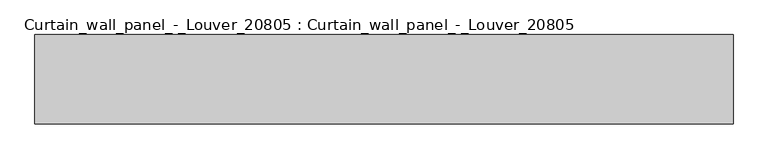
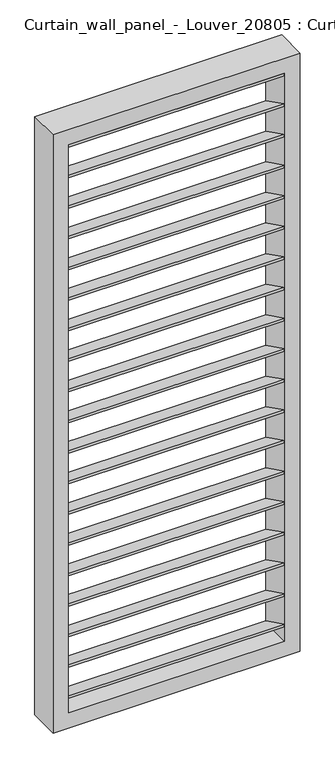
"""IFC4 building model written with IfcOpenShell, lengths in millimetres: plate geometry, Curtain_wall_panel_-_Louver_20805 : Curtain_wall_panel_-_Louver_20805."""

from ifc_helpers import new_model, si_unit, frame, origin, place, context, project, spatial, polyline, outline, extrude, source, transform, mapped, element, save


def curtain_wall_panel_louver_20805_curtain_wall_panel_louver_29182894(model_context):
    return source(origin(), model_context, "Body", "SweptSolid", [
        extrude(outline(polyline([(-200.0, 3678.5908966), (-200.0, 3695.3408295), (0.0, 3595.9558314), (0.0, 3579.2058986), (-200.0, 3678.5908966)])), frame((-682.1696292, 0.0, 0.0), z_axis=(1.0, 0.0, 0.0), x_axis=(0.0, 1.0, 0.0)), (0.0, 0.0, 1.0), 1364.3392585),
        extrude(outline(polyline([(-200.0, 3473.9317261), (-200.0, 3490.681659), (0.0, 3391.2966609), (0.0, 3374.546728), (-200.0, 3473.9317261)])), frame((-682.1696292, 0.0, 0.0), z_axis=(1.0, 0.0, 0.0), x_axis=(0.0, 1.0, 0.0)), (0.0, 0.0, 1.0), 1364.3392585),
        extrude(outline(polyline([(-200.0, 3269.2725556), (-200.0, 3286.0224885), (0.0, 3186.6374904), (0.0, 3169.8875575), (-200.0, 3269.2725556)])), frame((-682.1696292, 0.0, 0.0), z_axis=(1.0, 0.0, 0.0), x_axis=(0.0, 1.0, 0.0)), (0.0, 0.0, 1.0), 1364.3392585),
        extrude(outline(polyline([(-200.0, 3064.6133851), (-200.0, 3081.363318), (0.0, 2981.9783199), (0.0, 2965.228387), (-200.0, 3064.6133851)])), frame((-682.1696292, 0.0, 0.0), z_axis=(1.0, 0.0, 0.0), x_axis=(0.0, 1.0, 0.0)), (0.0, 0.0, 1.0), 1364.3392585),
        extrude(outline(polyline([(-200.0, 2859.9542146), (-200.0, 2876.7041475), (0.0, 2777.3191494), (0.0, 2760.5692165), (-200.0, 2859.9542146)])), frame((-682.1696292, 0.0, 0.0), z_axis=(1.0, 0.0, 0.0), x_axis=(0.0, 1.0, 0.0)), (0.0, 0.0, 1.0), 1364.3392585),
        extrude(outline(polyline([(-200.0, 2655.2950441), (-200.0, 2672.044977), (0.0, 2572.6599789), (0.0, 2555.910046), (-200.0, 2655.2950441)])), frame((-682.1696292, 0.0, 0.0), z_axis=(1.0, 0.0, 0.0), x_axis=(0.0, 1.0, 0.0)), (0.0, 0.0, 1.0), 1364.3392585),
        extrude(outline(polyline([(-200.0, 2450.6358736), (-200.0, 2467.3858065), (0.0, 2368.0008084), (0.0, 2351.2508755), (-200.0, 2450.6358736)])), frame((-682.1696292, 0.0, 0.0), z_axis=(1.0, 0.0, 0.0), x_axis=(0.0, 1.0, 0.0)), (0.0, 0.0, 1.0), 1364.3392585),
        extrude(outline(polyline([(-200.0, 2245.9767031), (-200.0, 2262.726636), (0.0, 2163.3416379), (0.0, 2146.591705), (-200.0, 2245.9767031)])), frame((-682.1696292, 0.0, 0.0), z_axis=(1.0, 0.0, 0.0), x_axis=(0.0, 1.0, 0.0)), (0.0, 0.0, 1.0), 1364.3392585),
        extrude(outline(polyline([(-200.0, 2041.3175326), (-200.0, 2058.0674655), (0.0, 1958.6824674), (0.0, 1941.9325345), (-200.0, 2041.3175326)])), frame((-682.1696292, 0.0, 0.0), z_axis=(1.0, 0.0, 0.0), x_axis=(0.0, 1.0, 0.0)), (0.0, 0.0, 1.0), 1364.3392585),
        extrude(outline(polyline([(-200.0, 1836.6583621), (-200.0, 1853.408295), (0.0, 1754.0232969), (0.0, 1737.273364), (-200.0, 1836.6583621)])), frame((-682.1696292, 0.0, 0.0), z_axis=(1.0, 0.0, 0.0), x_axis=(0.0, 1.0, 0.0)), (0.0, 0.0, 1.0), 1364.3392585),
        extrude(outline(polyline([(-200.0, 1631.9991916), (-200.0, 1648.7491245), (0.0, 1549.3641264), (0.0, 1532.6141935), (-200.0, 1631.9991916)])), frame((-682.1696292, 0.0, 0.0), z_axis=(1.0, 0.0, 0.0), x_axis=(0.0, 1.0, 0.0)), (0.0, 0.0, 1.0), 1364.3392585),
        extrude(outline(polyline([(-200.0, 1427.3400211), (-200.0, 1444.089954), (0.0, 1344.7049559), (0.0, 1327.955023), (-200.0, 1427.3400211)])), frame((-682.1696292, 0.0, 0.0), z_axis=(1.0, 0.0, 0.0), x_axis=(0.0, 1.0, 0.0)), (0.0, 0.0, 1.0), 1364.3392585),
        extrude(outline(polyline([(-200.0, 1222.6808506), (-200.0, 1239.4307835), (0.0, 1140.0457854), (0.0, 1123.2958525), (-200.0, 1222.6808506)])), frame((-682.1696292, 0.0, 0.0), z_axis=(1.0, 0.0, 0.0), x_axis=(0.0, 1.0, 0.0)), (0.0, 0.0, 1.0), 1364.3392585),
        extrude(outline(polyline([(-200.0, 1018.0216801), (-200.0, 1034.771613), (0.0, 935.3866149), (0.0, 918.636682), (-200.0, 1018.0216801)])), frame((-682.1696292, 0.0, 0.0), z_axis=(1.0, 0.0, 0.0), x_axis=(0.0, 1.0, 0.0)), (0.0, 0.0, 1.0), 1364.3392585),
        extrude(outline(polyline([(-200.0, 813.3625096), (-200.0, 830.1124425), (0.0, 730.7274444), (0.0, 713.9775115), (-200.0, 813.3625096)])), frame((-682.1696292, 0.0, 0.0), z_axis=(1.0, 0.0, 0.0), x_axis=(0.0, 1.0, 0.0)), (0.0, 0.0, 1.0), 1364.3392585),
        extrude(outline(polyline([(-200.0, 608.7033391), (-200.0, 625.453272), (0.0, 526.0682739), (0.0, 509.318341), (-200.0, 608.7033391)])), frame((-682.1696292, 0.0, 0.0), z_axis=(1.0, 0.0, 0.0), x_axis=(0.0, 1.0, 0.0)), (0.0, 0.0, 1.0), 1364.3392585),
        extrude(outline(polyline([(-200.0, 404.0441686), (-200.0, 420.7941014), (0.0, 321.4091034), (0.0, 304.6591705), (-200.0, 404.0441686)])), frame((-682.1696292, 0.0, 0.0), z_axis=(1.0, 0.0, 0.0), x_axis=(0.0, 1.0, 0.0)), (0.0, 0.0, 1.0), 1364.3392585),
        extrude(outline(polyline([(-200.0, 3883.2500672), (-200.0, 3900.0), (0.0, 3800.6150019), (0.0, 3783.8650691), (-200.0, 3883.2500672)])), frame((-682.1696292, 0.0, 0.0), z_axis=(1.0, 0.0, 0.0), x_axis=(0.0, 1.0, 0.0)), (0.0, 0.0, 1.0), 1364.3392585),
        extrude(outline(polyline([(-200.0, 199.3849981), (-200.0, 216.1349309), (0.0, 116.7499328), (0.0, 100.0), (-200.0, 199.3849981)])), frame((-682.1696292, 0.0, 0.0), z_axis=(1.0, 0.0, 0.0), x_axis=(0.0, 1.0, 0.0)), (0.0, 0.0, 1.0), 1364.3392585),
        extrude(outline(polyline([(4000.0, -782.1696292), (0.0, -782.1696292), (0.0, 782.1696292), (4000.0, 782.1696292), (4000.0, -782.1696292)]), holes=[polyline([(3900.0, -682.1696292), (3900.0, 682.1696292), (100.0, 682.1696292), (100.0, -682.1696292), (3900.0, -682.1696292)])]), frame((0.0, -200.0, 0.0), z_axis=(0.0, 1.0, 0.0), x_axis=(0.0, 0.0, 1.0)), (0.0, 0.0, 1.0), 200.0),
    ])


if __name__ == "__main__":
    model = new_model("IFC4")
    model_context = context("Model", 3, world=origin())
    ifc_project = project(units=[si_unit("LENGTHUNIT", "METRE", prefix="MILLI")], contexts=[model_context])
    site = spatial("IfcSite", under=ifc_project)
    building = spatial("IfcBuilding", under=site)
    placement = place(None, origin())
    curtain_wall_panel_louver_20805_curtain_wall_panel_louver_shape = curtain_wall_panel_louver_20805_curtain_wall_panel_louver_29182894(model_context)
    element("IfcPlate", 1, ObjectType="Curtain_wall_panel_-_Louver_20805 : Curtain_wall_panel_-_Louver_20805", at=placement, inside=building, context=model_context, shape_type="MappedRepresentation", body=[
        mapped(curtain_wall_panel_louver_20805_curtain_wall_panel_louver_shape, transform((0.0, 0.0, 0.0), x_axis=(1.0, 0.0, 0.0), y_axis=(0.0, 1.0, 0.0), z_axis=(0.0, 0.0, 1.0))),
    ])
    save(model, "model.ifc")
